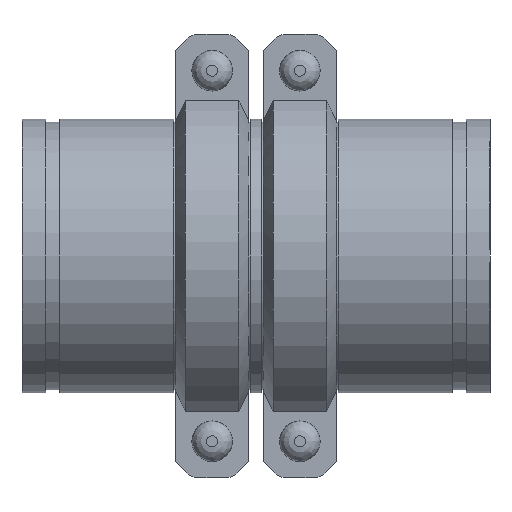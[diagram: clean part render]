
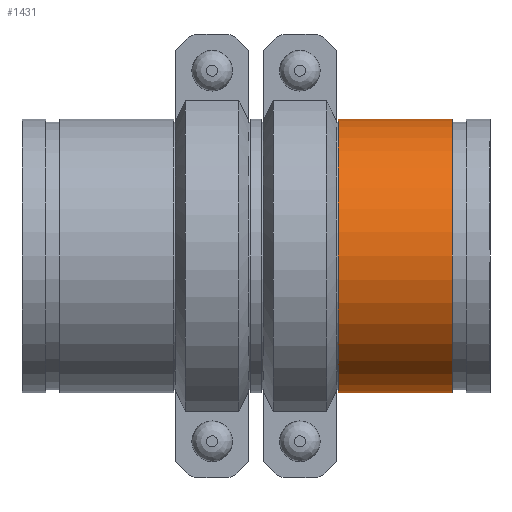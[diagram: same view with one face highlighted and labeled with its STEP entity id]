
A CAD part, front view. The second image highlights one B-rep face of the part: STEP entity #1431.
In plain terms, the highlighted cylindrical face has radius 109.537 mm (diameter 219.075 mm), a full revolution.
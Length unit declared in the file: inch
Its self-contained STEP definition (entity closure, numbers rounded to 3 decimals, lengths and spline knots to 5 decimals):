
#59=LINE('',#2304,#152);
#152=VECTOR('',#1861,4.3125);
#245=CYLINDRICAL_SURFACE('',#1647,4.3125);
#302=FACE_OUTER_BOUND('',#387,.T.);
#387=EDGE_LOOP('',(#940,#941,#942,#943,#944,#945));
#497=CIRCLE('',#1645,4.3125);
#498=CIRCLE('',#1646,4.3125);
#499=CIRCLE('',#1648,4.3125);
#500=CIRCLE('',#1649,4.3125);
#589=VERTEX_POINT('',#2295);
#590=VERTEX_POINT('',#2296);
#591=VERTEX_POINT('',#2300);
#592=VERTEX_POINT('',#2301);
#730=EDGE_CURVE('',#589,#590,#497,.T.);
#731=EDGE_CURVE('',#590,#589,#498,.T.);
#732=EDGE_CURVE('',#591,#592,#499,.T.);
#733=EDGE_CURVE('',#592,#591,#500,.T.);
#734=EDGE_CURVE('',#592,#590,#59,.T.);
#940=ORIENTED_EDGE('',*,*,#732,.F.);
#941=ORIENTED_EDGE('',*,*,#733,.F.);
#942=ORIENTED_EDGE('',*,*,#734,.T.);
#943=ORIENTED_EDGE('',*,*,#731,.T.);
#944=ORIENTED_EDGE('',*,*,#730,.T.);
#945=ORIENTED_EDGE('',*,*,#734,.F.);
#1431=ADVANCED_FACE('',(#302),#245,.T.);
#1645=AXIS2_PLACEMENT_3D('',#2297,#1851,#1852);
#1646=AXIS2_PLACEMENT_3D('',#2298,#1853,#1854);
#1647=AXIS2_PLACEMENT_3D('',#2299,#1855,#1856);
#1648=AXIS2_PLACEMENT_3D('',#2302,#1857,#1858);
#1649=AXIS2_PLACEMENT_3D('',#2303,#1859,#1860);
#1851=DIRECTION('center_axis',(-1.,0.,0.));
#1852=DIRECTION('ref_axis',(0.,0.,1.));
#1853=DIRECTION('center_axis',(-1.,0.,0.));
#1854=DIRECTION('ref_axis',(0.,0.,1.));
#1855=DIRECTION('center_axis',(-1.,0.,0.));
#1856=DIRECTION('ref_axis',(0.,1.,0.));
#1857=DIRECTION('center_axis',(-1.,0.,0.));
#1858=DIRECTION('ref_axis',(0.,0.,1.));
#1859=DIRECTION('center_axis',(-1.,0.,0.));
#1860=DIRECTION('ref_axis',(0.,0.,1.));
#1861=DIRECTION('',(1.,0.,0.));
#2295=CARTESIAN_POINT('',(1.797,4.3125,0.));
#2296=CARTESIAN_POINT('',(1.797,-4.3125,0.));
#2297=CARTESIAN_POINT('Origin',(1.797,0.,0.));
#2298=CARTESIAN_POINT('Origin',(1.797,0.,0.));
#2299=CARTESIAN_POINT('Origin',(0.,0.,
0.));
#2300=CARTESIAN_POINT('',(-1.797,4.3125,0.));
#2301=CARTESIAN_POINT('',(-1.797,-4.3125,0.));
#2302=CARTESIAN_POINT('Origin',(-1.797,0.,0.));
#2303=CARTESIAN_POINT('Origin',(-1.797,0.,0.));
#2304=CARTESIAN_POINT('',(0.,-4.3125,0.));
